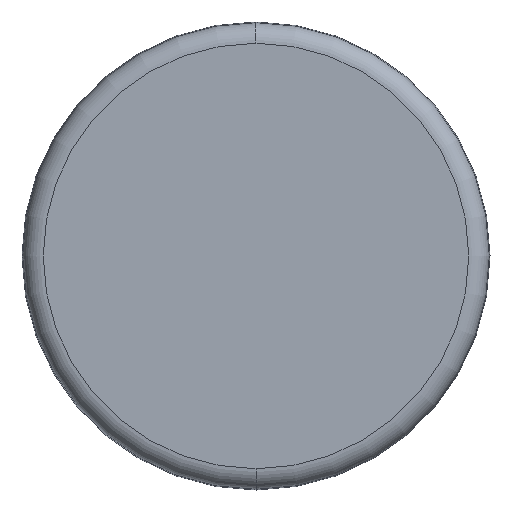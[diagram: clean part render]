
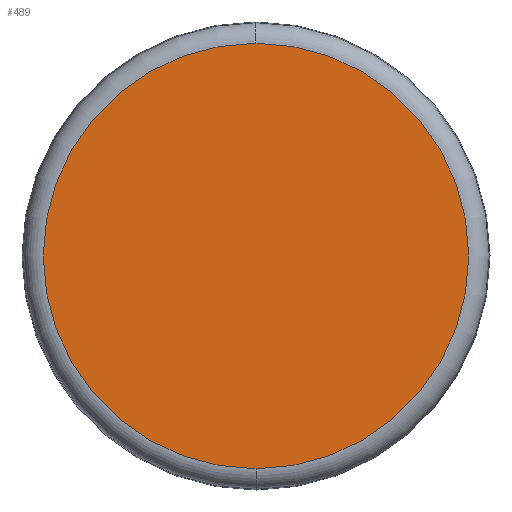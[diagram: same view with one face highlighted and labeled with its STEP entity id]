
A CAD part, front view. The second image highlights one B-rep face of the part: STEP entity #489.
In plain terms, the highlighted planar face has unit normal (0, -1, 0).
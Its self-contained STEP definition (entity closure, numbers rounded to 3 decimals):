
#265 = VERTEX_POINT( '', #688 );
#291 = VERTEX_POINT( '', #715 );
#321 = EDGE_CURVE( '', #291, #265, #750, .T. );
#369 = VERTEX_POINT( '', #802 );
#489 = ADVANCED_FACE( '', ( #937 ), #938, .T. );
#593 = EDGE_CURVE( '', #265, #369, #1051, .T. );
#619 = EDGE_CURVE( '', #369, #291, #1079, .T. );
#688 = CARTESIAN_POINT( '', ( 0., -26., -10.442 ) );
#715 = CARTESIAN_POINT( '', ( 10.442, -26., 0. ) );
#750 = CIRCLE( '', #1223, 10.442 );
#802 = CARTESIAN_POINT( '', ( 0., -26., 10.442 ) );
#937 = FACE_OUTER_BOUND( '', #1461, .T. );
#938 = PLANE( '', #1462 );
#1051 = CIRCLE( '', #1602, 10.442 );
#1079 = CIRCLE( '', #1641, 10.442 );
#1223 = AXIS2_PLACEMENT_3D( '', #1802, #1803, #1804 );
#1461 = EDGE_LOOP( '', ( #2077, #2078, #2079 ) );
#1462 = AXIS2_PLACEMENT_3D( '', #2080, #2081, #2082 );
#1602 = AXIS2_PLACEMENT_3D( '', #2222, #2223, #2224 );
#1641 = AXIS2_PLACEMENT_3D( '', #2263, #2264, #2265 );
#1802 = CARTESIAN_POINT( '', ( 0., -26., 0. ) );
#1803 = DIRECTION( '', ( 0., 1., 0. ) );
#1804 = DIRECTION( '', ( 1., 0., 0. ) );
#2077 = ORIENTED_EDGE( '', *, *, #321, .F. );
#2078 = ORIENTED_EDGE( '', *, *, #619, .F. );
#2079 = ORIENTED_EDGE( '', *, *, #593, .F. );
#2080 = CARTESIAN_POINT( '', ( 5.221, -26., 0. ) );
#2081 = DIRECTION( '', ( 0., -1., 0. ) );
#2082 = DIRECTION( '', ( -1., 0., 0. ) );
#2222 = CARTESIAN_POINT( '', ( 0., -26., 0. ) );
#2223 = DIRECTION( '', ( 0., 1., 0. ) );
#2224 = DIRECTION( '', ( 1., 0., 0. ) );
#2263 = CARTESIAN_POINT( '', ( 0., -26., 0. ) );
#2264 = DIRECTION( '', ( 0., 1., 0. ) );
#2265 = DIRECTION( '', ( 1., 0., 0. ) );
